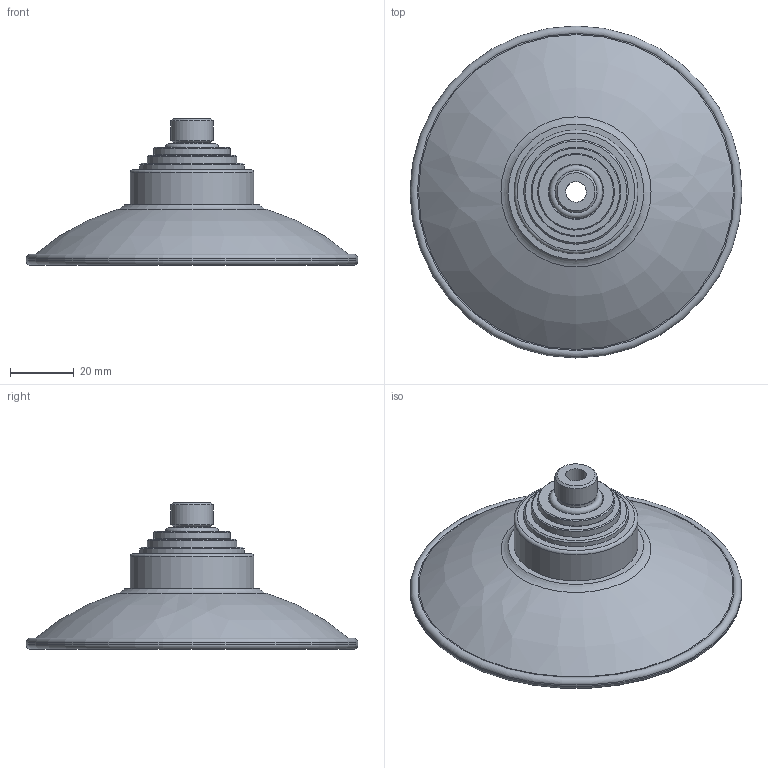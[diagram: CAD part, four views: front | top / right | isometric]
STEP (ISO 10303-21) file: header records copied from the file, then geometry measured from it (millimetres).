
FILE_DESCRIPTION( ( 'Unknown' ), '1' );
FILE_NAME( 'D:/弥龋覆(冠固急)/Smart Cup/寇何侩-唱荤魂TYPE/FCF100-14M.stp', 'Unknown', ( 'Unknown' ), ( 'Unknown' ), 'PSStep 10.0', 'Unknown', ' ' );
FILE_SCHEMA( ( 'AUTOMOTIVE_DESIGN { 1 0 10303 214 1 1 1 1 }' ) );
Length unit declared in the file: millimetre
Products named in the file (5): Assem1; FCF100; VDF-FCF-12F; VDF-FCF-12M14M; 14M-oring
Bounding box: 104 x 104 x 45.93 mm (x, y, z)
Volume: 85940.4 mm3; surface area: 64082.9 mm2
Topology: 8 solids, 8 shells, 130 faces, 220 edges, 130 vertices
Faces by surface type: cylinder 46, plane 40, cone 26, torus 12, bspline 6
Full cylindrical faces by diameter (mm): 6.5 x2, 9.5 x2, 11.9 x2, 13.2 x2, 16.8 x6, 16.9 x2, 18.631 x2, 19 x2, 21 x2, 24 x6, 28 x2, 30.8 x2, 31.8 x2, 32.8 x6, 38.8 x2, 98 x2, 104 x2
Entity records: 1981 total; most frequent: CARTESIAN_POINT 279, DIRECTION 262, AXIS2_PLACEMENT_3D 131, EDGE_LOOP 128, ORIENTED_EDGE 128, FACE_OUTER_BOUND 95, STYLED_ITEM 65, PRESENTATION_STYLE_ASSIGNMENT 65
